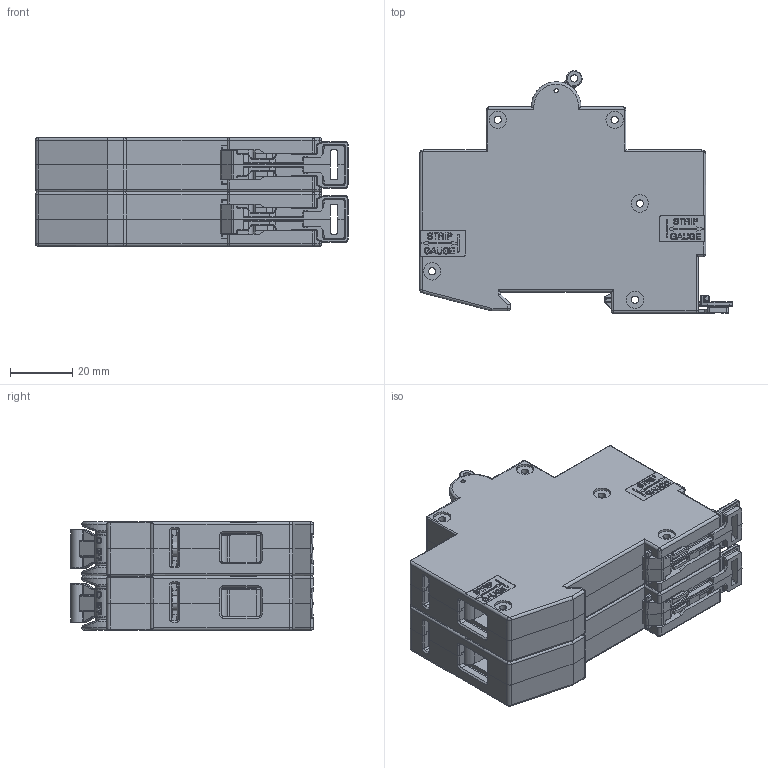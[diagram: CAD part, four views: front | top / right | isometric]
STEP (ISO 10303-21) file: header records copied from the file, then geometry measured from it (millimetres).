
FILE_DESCRIPTION((''),'2;1');
FILE_NAME('2012-3P_WRP','2009-02-09T',('jianzhuanlin'),(''),'PRO/ENGINEER BY PARAMETRIC TECHNOLOGY CORPORATION, 2008010','PRO/ENGINEER BY PARAMETRIC TECHNOLOGY CORPORATION, 2008010','');
FILE_SCHEMA(('CONFIG_CONTROL_DESIGN'));
Products named in the file (1): 2012-3P_WRP
Bounding box: 100.66 x 78.17 x 34.95 mm (x, y, z)
Surface area: 72442.9 mm2 (no closed solid volume)
Topology: 0 solids, 44 shells, 4926 faces, 15025 edges, 9942 vertices
Faces by surface type: plane 2933, cylinder 1220, bspline 214, extrusion 198, torus 191, cone 98, sphere 72
Entity records: 177631 total; most frequent: CARTESIAN_POINT 46188, ORIENTED_EDGE 27134, DIRECTION 25577, EDGE_CURVE 15025, VECTOR 11201, LINE 11003, VERTEX_POINT 9942, AXIS2_PLACEMENT_3D 7188
